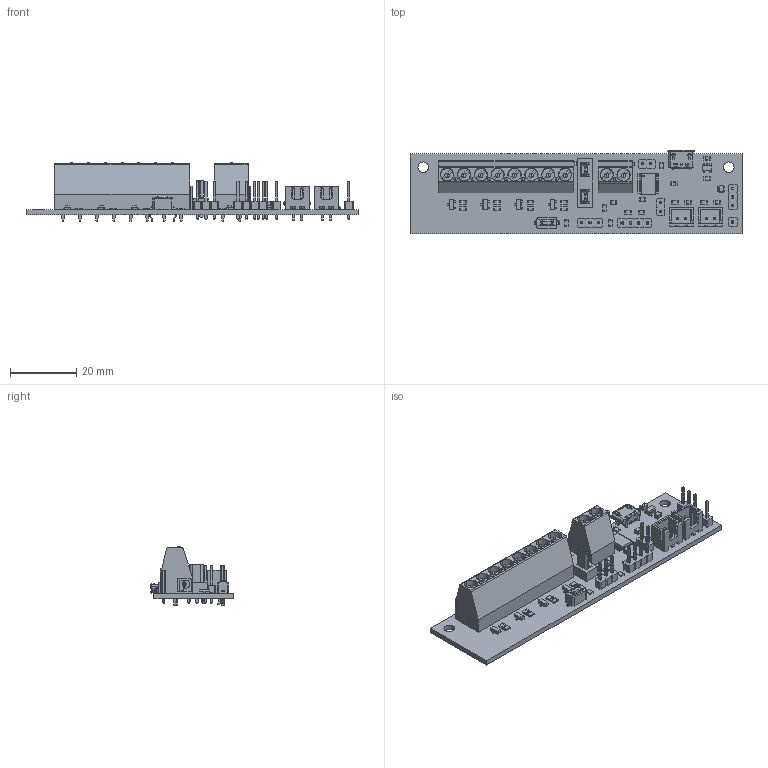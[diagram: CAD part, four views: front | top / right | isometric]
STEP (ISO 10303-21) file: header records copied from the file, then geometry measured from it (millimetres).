
FILE_DESCRIPTION(('KiCad electronic assembly'),'2;1');
FILE_NAME('STM32_Klipper_Expander.step','2020-02-02T22:20:16',( 'An Author'),('A Company'),'Open CASCADE STEP processor 6.9', 'KiCad to STEP converter','Unknown');
FILE_SCHEMA(('AUTOMOTIVE_DESIGN { 1 0 10303 214 1 1 1 1 }'));
Length unit declared in the file: millimetre
Products named in the file (36): Open CASCADE STEP translator 6.9 1; PinHeader_1x02_P2.54mm_Vertical; SOLID; Molex-1050170001; COMPOUND; PinHeader_1x01_P2.54mm_Vertical; R_0805_2012Metric; C_0805_2012Metric; JST_XH_B02B-XH-A_1x02_P2.50mm_Vertical; keystone-PN3544-2; 1715721_MKDS_2-Pin; LED_0805_2012Metric; SOT-353_SC-70-5; SOT-23; TSSOP-20_4.4x6.5mm_P0.65mm; SOT-23-5; PinHeader_1x03_P2.54mm_Vertical; PinHeader_1x04_P2.54mm_Vertical; TL1107AFxxxWQ; 1715789_MKDS_8-Pin
Assembly tree (61 placements, depth 3):
  Open CASCADE STEP translator 6.9 1
    PinHeader_1x02_P2.54mm_Vertical  x2
      SOLID
    Molex-1050170001
      COMPOUND
    PinHeader_1x01_P2.54mm_Vertical
      SOLID
    R_0805_2012Metric  x16
      SOLID
    C_0805_2012Metric  x6
      SOLID
    JST_XH_B02B-XH-A_1x02_P2.50mm_Vertical  x2
      SOLID
    keystone-PN3544-2
      COMPOUND
    1715721_MKDS_2-Pin
      COMPOUND
    LED_0805_2012Metric
      SOLID
    SOT-353_SC-70-5
      SOLID
    SOT-23  x4
      SOLID
    TSSOP-20_4.4x6.5mm_P0.65mm
      SOLID
    SOT-23-5
      SOLID
    PinHeader_1x03_P2.54mm_Vertical  x2
      SOLID
    PinHeader_1x04_P2.54mm_Vertical
      SOLID
    TL1107AFxxxWQ
      SOLID
    1715789_MKDS_8-Pin
      COMPOUND
    COMPOUND
Bounding box: 100 x 25.09 x 17.85 mm (x, y, z)
Volume: 9952.8 mm3; surface area: 11969.9 mm2
Topology: 43 solids, 47 shells, 3346 faces, 8784 edges, 5698 vertices
Faces by surface type: plane 2342, cylinder 730, bspline 214, sphere 44, torus 8, revolution 8
Full cylindrical faces by diameter (mm): 0.5 x1, 0.85 x2, 1 x19, 1.25 x2, 1.3 x10, 1.7 x4, 3.2 x2
Entity records: 170262 total; most frequent: CARTESIAN_POINT 31621, DIRECTION 23654, LINE 15762, VECTOR 15762, ORIENTED_EDGE 12418, PCURVE 12418, DEFINITIONAL_REPRESENTATION 12418, EDGE_CURVE 6241
